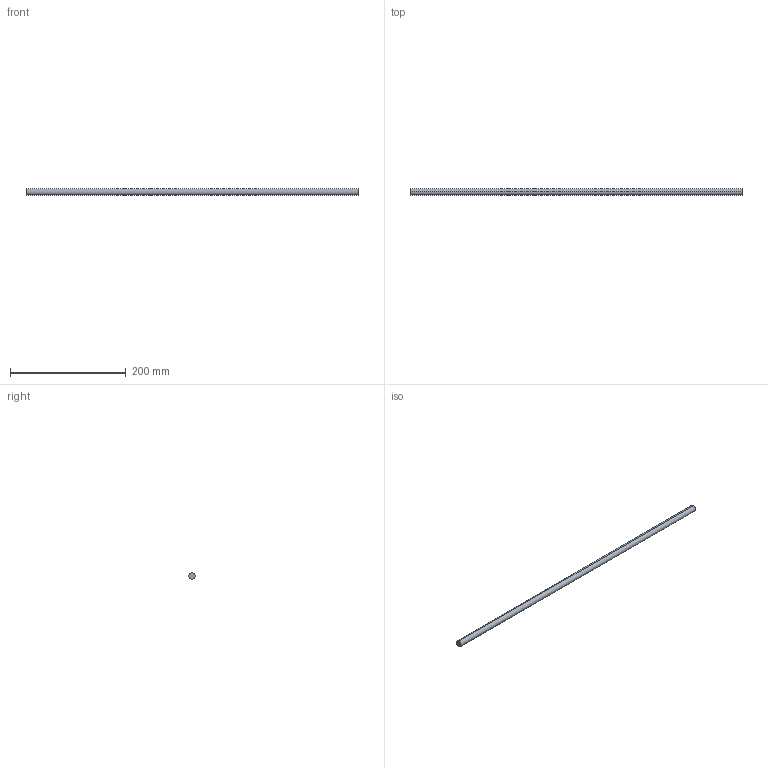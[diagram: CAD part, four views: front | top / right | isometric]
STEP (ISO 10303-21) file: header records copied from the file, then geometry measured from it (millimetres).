
FILE_DESCRIPTION (( 'STEP AP214' ), '1' );
FILE_NAME ('Querreling_2S-Rel_7102_25mm-Halter_KAB-700.step', '2010-09-22T15:06:05', ( 'grass' ), ( '' ), 'SwSTEP 2.0', 'SolidWorks 2010', '' );
FILE_SCHEMA (( 'AUTOMOTIVE_DESIGN' ));
Length unit declared in the file: millimetre
Products named in the file (1): Querreling_2S-Rel_7102_25mm-Halter_KAB-700
Bounding box: 574 x 11 x 11 mm (x, y, z)
Volume: 54549 mm3; surface area: 20026.1 mm2
Topology: 1 solids, 1 shells, 4 faces, 6 edges, 4 vertices
Faces by surface type: cylinder 2, plane 2
Entity records: 128 total; most frequent: DIRECTION 20, CARTESIAN_POINT 15, ORIENTED_EDGE 12, AXIS2_PLACEMENT_3D 9, EDGE_CURVE 6, EDGE_LOOP 4, CIRCLE 4, FACE_OUTER_BOUND 4
